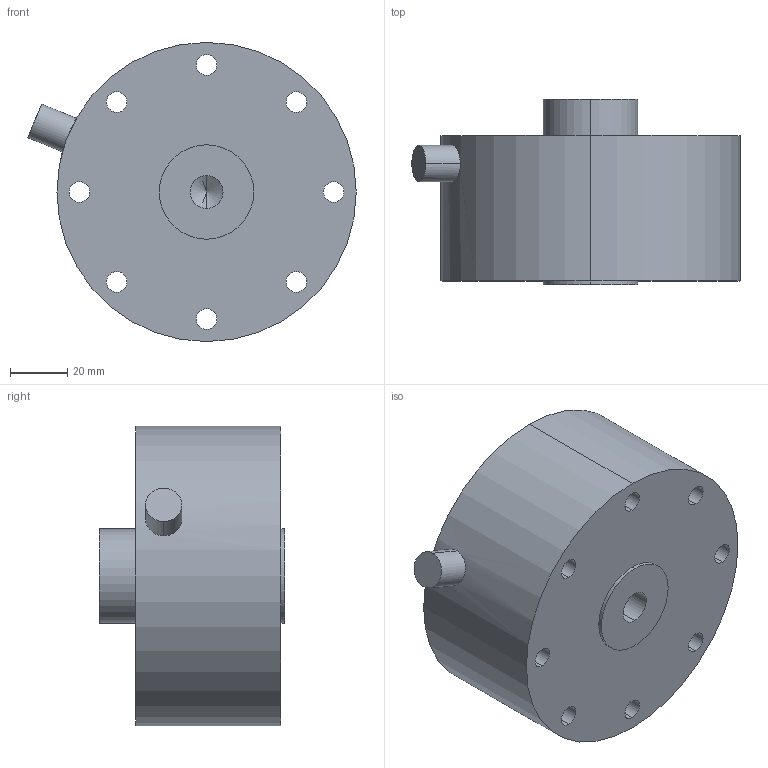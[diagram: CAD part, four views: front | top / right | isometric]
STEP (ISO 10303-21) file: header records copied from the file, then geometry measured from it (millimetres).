
FILE_DESCRIPTION (( 'STEP AP203' ), '1' );
FILE_NAME ('RAL1_10KS_S.STEP', '2020-04-04T14:11:16', ( '' ), ( '' ), 'SwSTEP 2.0', 'SolidWorks 2016', '' );
FILE_SCHEMA (( 'CONFIG_CONTROL_DESIGN' ));
Length unit declared in the file: inch
Products named in the file (1): RAL1_10KS_S
Bounding box: 114.83 x 64.77 x 104.65 mm (x, y, z)
Volume: 422078.8 mm3; surface area: 47343.4 mm2
Topology: 1 solids, 1 shells, 64 faces, 146 edges, 94 vertices
Faces by surface type: cylinder 46, plane 14, cone 4
Entity records: 2011 total; most frequent: CARTESIAN_POINT 385, DIRECTION 360, ORIENTED_EDGE 284, AXIS2_PLACEMENT_3D 155, EDGE_CURVE 142, VERTEX_POINT 94, EDGE_LOOP 94, CIRCLE 90
